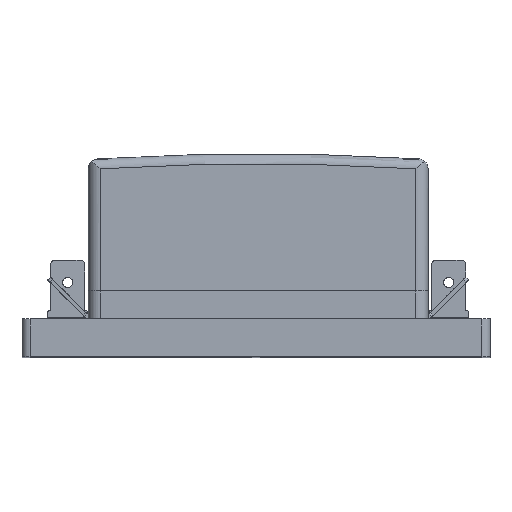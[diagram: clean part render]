
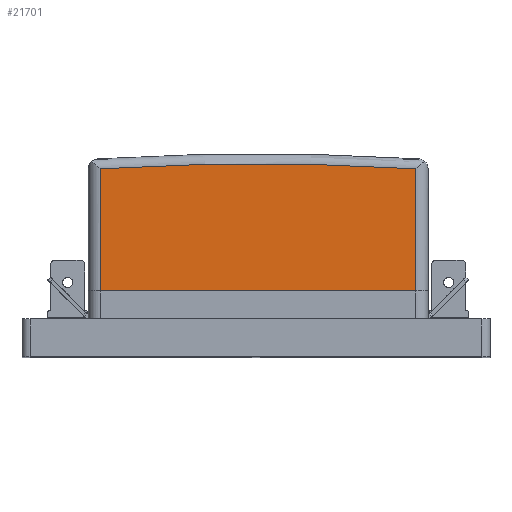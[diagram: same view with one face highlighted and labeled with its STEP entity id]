
A CAD part, top view. The second image highlights one B-rep face of the part: STEP entity #21701.
In plain terms, the highlighted planar face has unit normal (0, 0, 1) as drawn and (0, -1, 0) by its records, which use the part's own axes.
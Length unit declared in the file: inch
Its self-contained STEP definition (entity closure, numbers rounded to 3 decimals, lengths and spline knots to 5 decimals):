
#1706=PLANE('',#23489);
#2846=FACE_OUTER_BOUND('',#4134,.T.);
#4134=EDGE_LOOP('',(#20236,#20237,#20238,#20239));
#6233=LINE('',#41923,#8341);
#6235=LINE('',#41929,#8343);
#6236=LINE('',#41930,#8344);
#8341=VECTOR('',#28750,0.3937);
#8343=VECTOR('',#28756,0.3937);
#8344=VECTOR('',#28757,0.3937);
#8937=CIRCLE('',#23485,18.40697);
#10964=VERTEX_POINT('',#41871);
#10965=VERTEX_POINT('',#41882);
#10970=VERTEX_POINT('',#41922);
#10972=VERTEX_POINT('',#41928);
#14057=EDGE_CURVE('',#10964,#10965,#8937,.T.);
#14064=EDGE_CURVE('',#10970,#10965,#6233,.T.);
#14067=EDGE_CURVE('',#10972,#10964,#6235,.T.);
#14068=EDGE_CURVE('',#10970,#10972,#6236,.T.);
#20236=ORIENTED_EDGE('',*,*,#14057,.F.);
#20237=ORIENTED_EDGE('',*,*,#14067,.F.);
#20238=ORIENTED_EDGE('',*,*,#14068,.F.);
#20239=ORIENTED_EDGE('',*,*,#14064,.T.);
#21701=ADVANCED_FACE('',(#2846),#1706,.T.);
#23485=AXIS2_PLACEMENT_3D('',#41883,#28742,#28743);
#23489=AXIS2_PLACEMENT_3D('',#41927,#28754,#28755);
#28742=DIRECTION('center_axis',(0.,1.,0.));
#28743=DIRECTION('ref_axis',(0.,0.,1.));
#28750=DIRECTION('',(0.,0.,1.));
#28754=DIRECTION('center_axis',(0.,-1.,0.));
#28755=DIRECTION('ref_axis',(1.,0.,0.));
#28756=DIRECTION('',(0.,0.,1.));
#28757=DIRECTION('',(-1.,0.,0.));
#41871=CARTESIAN_POINT('',(-1.17,-1.575,0.48378));
#41882=CARTESIAN_POINT('',(1.17,-1.575,0.48378));
#41883=CARTESIAN_POINT('Origin',(0.,-1.575,-17.88597));
#41922=CARTESIAN_POINT('',(1.17,-1.575,-0.422));
#41923=CARTESIAN_POINT('',(1.17,-1.575,-0.422));
#41927=CARTESIAN_POINT('Origin',(-1.17,-1.575,-0.422));
#41928=CARTESIAN_POINT('',(-1.17,-1.575,-0.422));
#41929=CARTESIAN_POINT('',(-1.17,-1.575,-0.422));
#41930=CARTESIAN_POINT('',(1.17,-1.575,-0.422));
